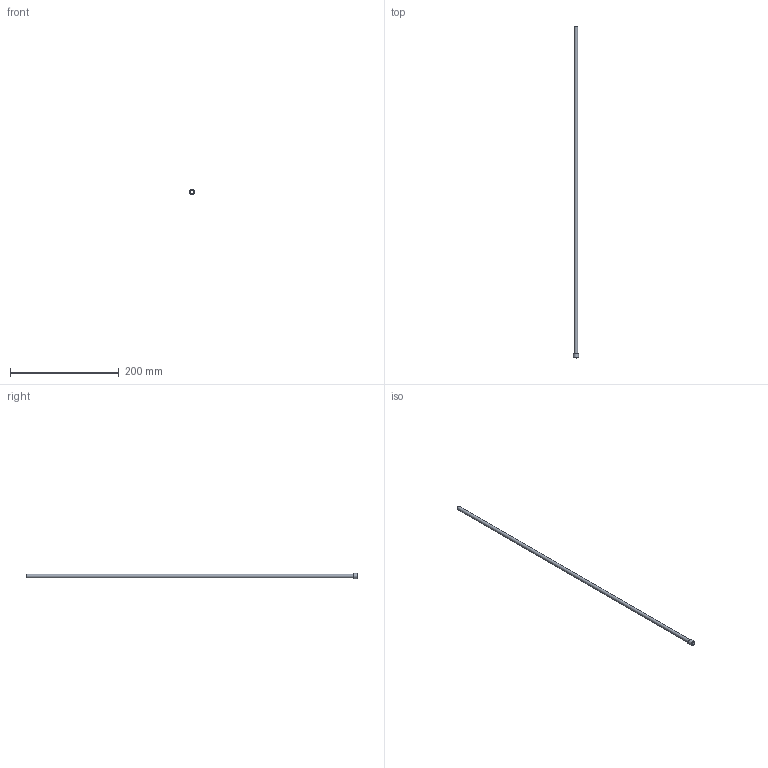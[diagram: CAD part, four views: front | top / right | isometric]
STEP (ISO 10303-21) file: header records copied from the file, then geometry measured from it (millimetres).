
FILE_DESCRIPTION(/* description */ (''),/* implementation_level */ '2;1');
FILE_NAME(/* name */ 'C:/Users/drich/Desktop/JHF250T-24 v1.step',/* time_stamp */ '2020-01-02T20:03:16-06:00',/* author */ (''),/* organization */ (''),/* preprocessor_version */ 'ST-DEVELOPER v18',/* originating_system */ 'Autodesk Translation Framework v8.12.0.6',/* authorisation */ '');
FILE_SCHEMA (('AUTOMOTIVE_DESIGN { 1 0 10303 214 3 1 1 }'));
Length unit declared in the file: inch
Products named in the file (1): JHF250T-24
Bounding box: 9.58 x 609.6 x 9.58 mm (x, y, z)
Volume: 3313.8 mm3; surface area: 23516.9 mm2
Topology: 1 solids, 1 shells, 10 faces, 24 edges, 18 vertices
Faces by surface type: cylinder 4, plane 4, cone 1, torus 1
Full cylindrical faces by diameter (mm): 5.842 x1, 6.35 x1, 9.434 x1, 9.576 x1
Entity records: 354 total; most frequent: DIRECTION 65, CARTESIAN_POINT 53, ORIENTED_EDGE 48, AXIS2_PLACEMENT_3D 30, EDGE_CURVE 24, CIRCLE 19, VERTEX_POINT 18, EDGE_LOOP 14
